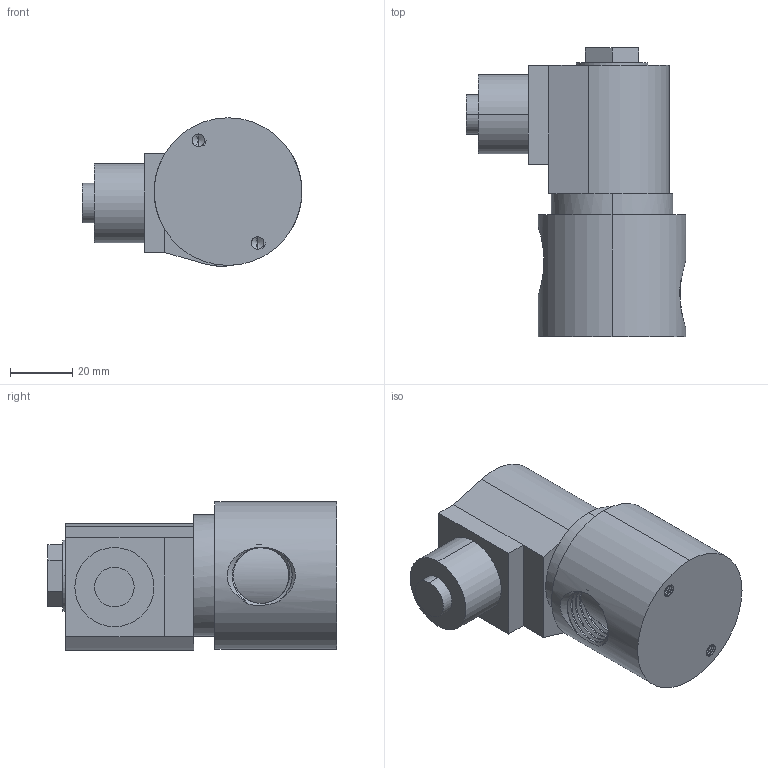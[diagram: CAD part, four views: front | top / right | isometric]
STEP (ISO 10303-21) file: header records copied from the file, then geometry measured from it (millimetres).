
FILE_DESCRIPTION (( 'STEP AP203' ), '1' );
FILE_NAME ('S401G_D.STEP', '2021-01-04T14:30:56', ( '' ), ( '' ), 'SwSTEP 2.0', 'SolidWorks 2020', '' );
FILE_SCHEMA (( 'CONFIG_CONTROL_DESIGN' ));
Length unit declared in the file: inch
Products named in the file (1): S401G_D
Bounding box: 70.61 x 92.99 x 47.71 mm (x, y, z)
Volume: 143436.8 mm3; surface area: 21432.8 mm2
Topology: 1 solids, 1 shells, 251 faces, 775 edges, 511 vertices
Faces by surface type: cylinder 113, bspline 79, plane 44, cone 15
Entity records: 20839 total; most frequent: CARTESIAN_POINT 15004, ORIENTED_EDGE 1542, DIRECTION 796, EDGE_CURVE 771, VERTEX_POINT 511, AXIS2_PLACEMENT_3D 266, EDGE_LOOP 264, LINE 264
